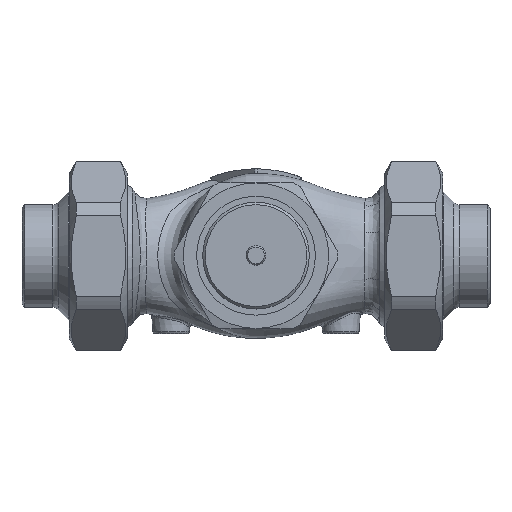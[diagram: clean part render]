
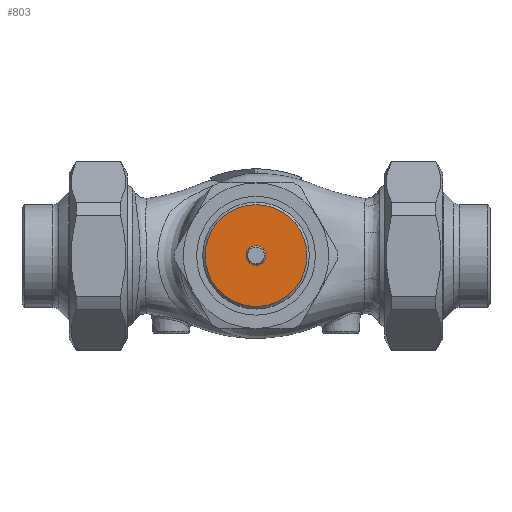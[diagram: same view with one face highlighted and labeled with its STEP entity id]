
A CAD part, top view. The second image highlights one B-rep face of the part: STEP entity #803.
In plain terms, the highlighted planar face has unit normal (0, 0, 1).
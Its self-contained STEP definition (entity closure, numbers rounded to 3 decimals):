
#518=FACE_BOUND('',#1161,.T.);
#519=FACE_BOUND('',#1162,.T.);
#803=ADVANCED_FACE('',(#518,#519),#933,.F.);
#933=PLANE('',#2737);
#1161=EDGE_LOOP('',(#1553));
#1162=EDGE_LOOP('',(#1554));
#1553=ORIENTED_EDGE('',*,*,#2297,.F.);
#1554=ORIENTED_EDGE('',*,*,#2298,.T.);
#2040=VERTEX_POINT('',#11364);
#2041=VERTEX_POINT('',#11366);
#2297=EDGE_CURVE('',#2040,#2040,#2539,.T.);
#2298=EDGE_CURVE('',#2041,#2041,#2540,.T.);
#2539=CIRCLE('',#2735,4.);
#2540=CIRCLE('',#2736,21.);
#2735=AXIS2_PLACEMENT_3D('',#11363,#3156,#3157);
#2736=AXIS2_PLACEMENT_3D('',#11365,#3158,#3159);
#2737=AXIS2_PLACEMENT_3D('',#11367,#3160,#3161);
#3156=DIRECTION('',(0.,0.,1.));
#3157=DIRECTION('',(-1.,0.,0.));
#3158=DIRECTION('',(0.,0.,1.));
#3159=DIRECTION('',(-1.,0.,0.));
#3160=DIRECTION('',(0.,0.,-1.));
#3161=DIRECTION('',(-1.,0.,0.));
#11363=CARTESIAN_POINT('',(0.,0.,101.));
#11364=CARTESIAN_POINT('',(-4.,0.,101.));
#11365=CARTESIAN_POINT('',(0.,0.,101.));
#11366=CARTESIAN_POINT('',(-21.,0.,101.));
#11367=CARTESIAN_POINT('',(0.,-11.25,101.));
